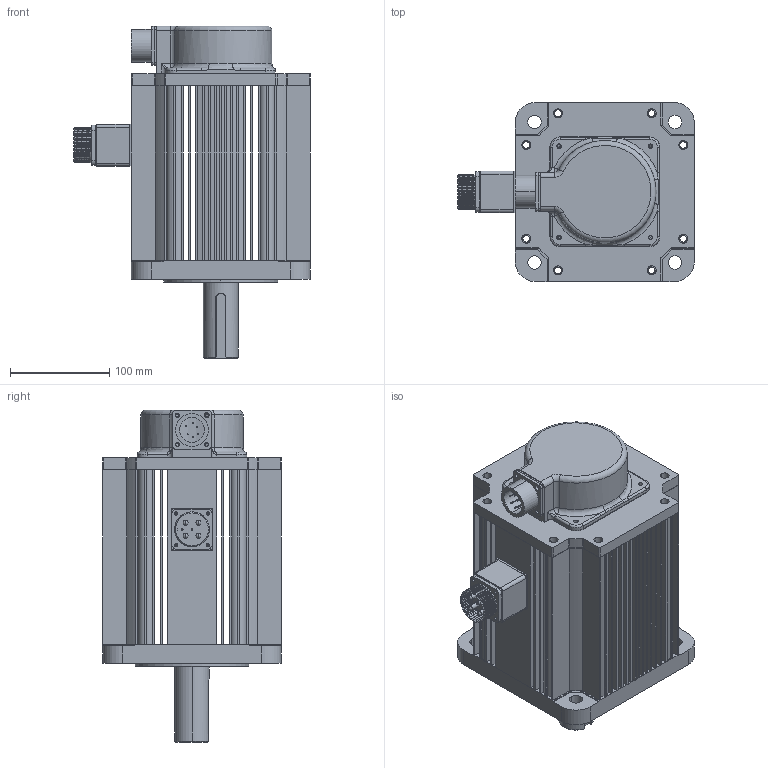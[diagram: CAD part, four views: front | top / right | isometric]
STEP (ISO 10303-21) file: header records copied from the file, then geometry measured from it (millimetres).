
FILE_DESCRIPTION (( 'STEP AP203' ), '1' );
FILE_NAME ('MS6H-180CN15BZ2-43P0.STEP', '2023-12-26T02:55:11', ( '' ), ( '' ), 'SwSTEP 2.0', 'SolidWorks 2022', '' );
FILE_SCHEMA (( 'CONFIG_CONTROL_DESIGN' ));
Length unit declared in the file: millimetre
Products named in the file (1): MS6H-180CN15BZ2-43P0
Bounding box: 237.9 x 180 x 334 mm (x, y, z)
Surface area: 420350.8 mm2 (no closed solid volume)
Topology: 0 solids, 31 shells, 777 faces, 2496 edges, 1733 vertices
Faces by surface type: cylinder 322, plane 315, torus 81, bspline 30, cone 15, sphere 14
Entity records: 34085 total; most frequent: CARTESIAN_POINT 12108, DIRECTION 4825, ORIENTED_EDGE 4109, EDGE_CURVE 2468, AXIS2_PLACEMENT_3D 1811, VERTEX_POINT 1721, VECTOR 1203, LINE 1203
